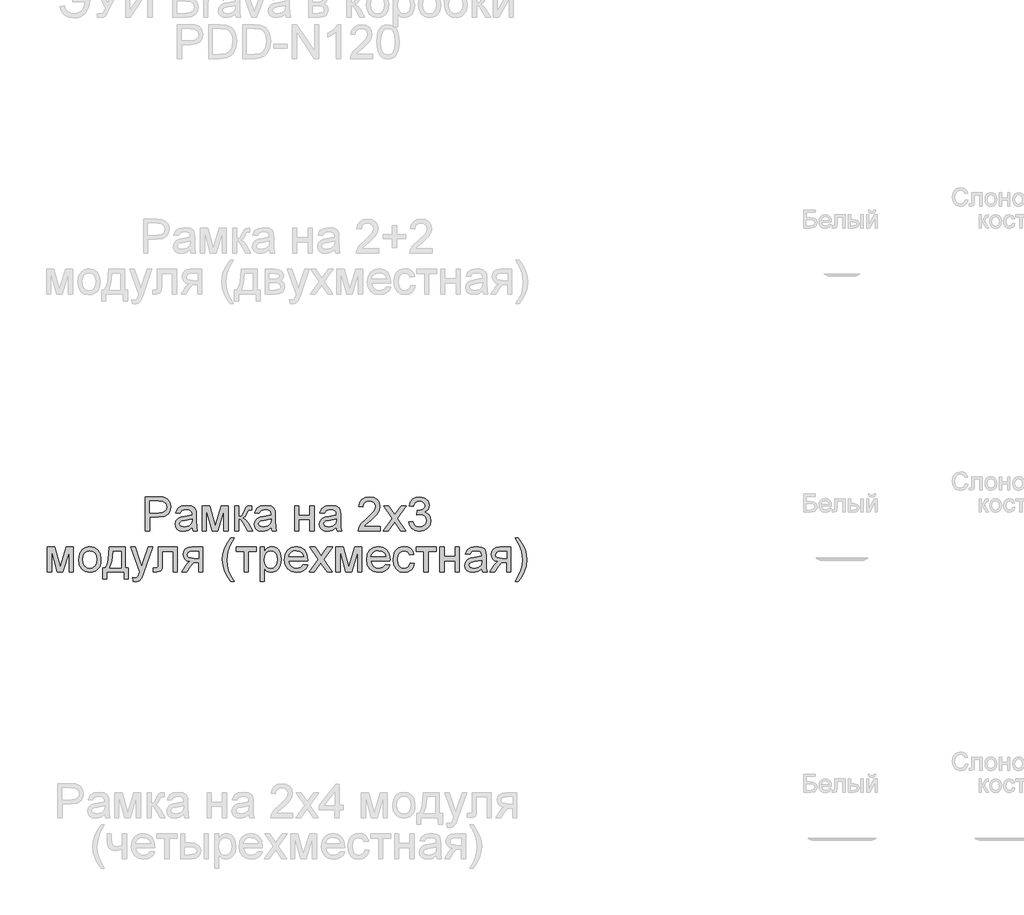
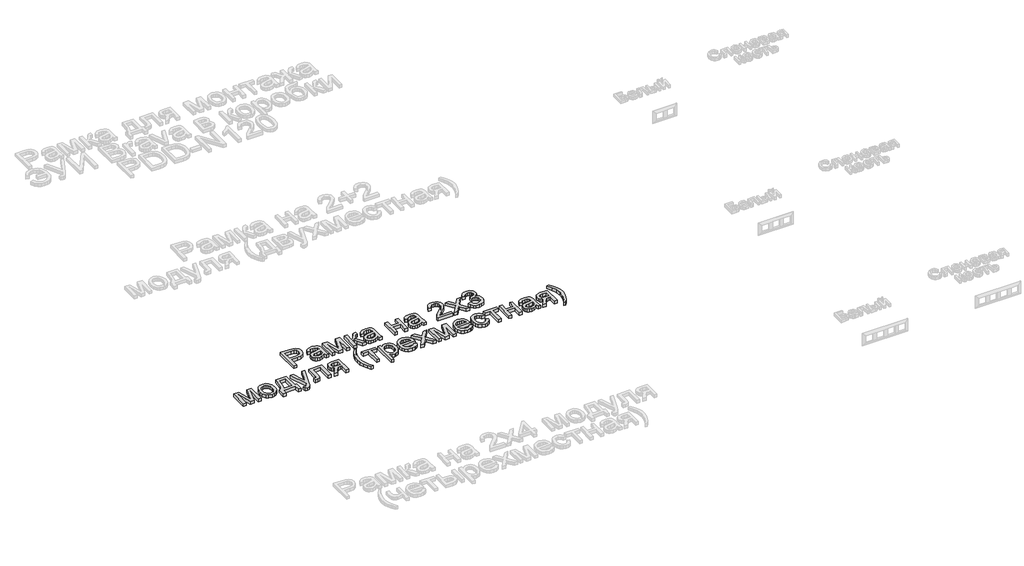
# One storey, part 40 of 47: 1 proxy.
"""IFC4 building model written with IfcOpenShell, lengths in millimetres."""

from ifc_helpers import new_model, si_unit, origin, origin_with_axes, place, context, project, spatial, polyline, outline, extrude, element, save

model = new_model("IFC4")

# Units and contexts
model_context = context("Model", 3, world=origin())
ifc_project = project(units=[si_unit("LENGTHUNIT", "METRE", prefix="MILLI")], contexts=[model_context])

# Site, building, storey
site = spatial("IfcSite", under=ifc_project)
building = spatial("IfcBuilding", under=site)
storey = spatial("IfcBuildingStorey", under=building, Name="Этаж 01", Elevation=0.0)

# Proxy
placement = place(None, origin())
element("IfcBuildingElementProxy", 1, Name="150 мм Arial", ObjectType="150 мм Arial", at=placement, inside=storey, context=model_context, shape_type="SweptSolid", body=[
    extrude(outline(polyline([(-3086.8258481, 401.4936548), (-3086.8258481, 552.17812), (-3030.9813612, 552.17812), (-3008.4669831, 550.7433802), (-2990.1648539, 543.69844), (-2978.3006595, 529.130313), (-2973.8124992, 508.5841036), (-2976.8429271, 490.8246003), (-2985.9342109, 476.026547), (-3002.9349576, 466.0385509), (-3029.6937742, 462.7092188), (-3067.9902899, 462.7092188), (-3067.9902899, 401.4936548), (-3086.8258481, 401.4936548)]), holes=[polyline([(-3067.9902899, 481.544777), (-3028.5901283, 481.544777), (-3011.8882857, 483.2738223), (-3000.8518258, 488.4609585), (-2994.6989995, 496.7842886), (-2992.6480573, 507.921916), (-2997.4857056, 523.5201126), (-3010.1960285, 532.0549749), (-3029.0315867, 533.3425619), (-3067.9902899, 533.3425619), (-3067.9902899, 481.544777)])]), origin_with_axes(), (0.0, 0.0, 1.0), 20.0),
    extrude(outline(polyline([(-2879.6347084, 415.6203234), (-2897.9000495, 402.8548182), (-2918.0783769, 399.13921), (-2933.8191278, 401.3740932), (-2945.4304032, 408.0787425), (-2952.5903066, 418.2598767), (-2954.976941, 430.9242144), (-2951.3716975, 445.8234352), (-2941.8987361, 456.6391659), (-2928.7101666, 462.8195834), (-2912.4129942, 465.6522748), (-2879.745073, 472.1269979), (-2879.6347084, 476.3208526), (-2880.9314924, 484.7269562), (-2884.8218445, 490.226792), (-2893.5222537, 494.3102822), (-2905.6439655, 495.6714456), (-2924.7002528, 492.0478079), (-2933.7869381, 479.1903322), (-2952.6224963, 481.544777), (-2944.4739101, 499.9388767), (-2928.0663731, 510.7178192), (-2903.2159443, 514.5070037), (-2880.3888665, 511.1592776), (-2867.4946026, 502.753174), (-2861.7188552, 489.9692746), (-2860.7991503, 473.4881613), (-2860.7991503, 450.0540782), (-2859.8426571, 417.3309747), (-2856.0902607, 401.4936548), (-2874.9258189, 401.4936548), (-2879.6347084, 415.6203234)]), holes=[polyline([(-2879.6347084, 453.2914397), (-2910.0217612, 447.5156924), (-2926.2269631, 444.4622718), (-2933.5662089, 439.4958649), (-2936.1413829, 432.2485896), (-2930.5311824, 422.0582583), (-2914.0684632, 417.9747682), (-2895.0121758, 422.4813226), (-2882.7249172, 433.3890238), (-2879.745073, 447.9571508), (-2879.6347084, 453.2914397)])]), origin_with_axes(), (0.0, 0.0, 1.0), 20.0),
    extrude(outline(polyline([(-2834.9002578, 512.152559), (-2802.489854, 512.152559), (-2777.5106665, 423.5665745), (-2750.5817045, 512.152559), (-2719.5324641, 512.152559), (-2719.5324641, 401.4936548), (-2738.3680223, 401.4936548), (-2738.3680223, 490.594674), (-2765.4441371, 401.4936548), (-2790.1658072, 401.4936548), (-2816.0646996, 494.8621052), (-2816.0646996, 401.4936548), (-2834.9002578, 401.4936548), (-2834.9002578, 512.152559)])), origin_with_axes(), (0.0, 0.0, 1.0), 20.0),
    extrude(outline(polyline([(-2691.2791269, 512.152559), (-2672.4435687, 512.152559), (-2672.4435687, 465.0636636), (-2659.8252163, 468.4481779), (-2649.4877322, 488.1666529), (-2640.8976876, 505.1811951), (-2633.3193185, 510.7178192), (-2619.5421378, 512.152559), (-2615.9368943, 512.152559), (-2615.9368943, 493.2066362), (-2621.0136658, 493.3170008), (-2630.2107157, 491.330438), (-2636.6854388, 478.9328148), (-2644.282202, 465.5235161), (-2654.9323858, 458.9568225), (-2643.0497973, 451.6267737), (-2631.3879381, 436.184927), (-2611.2280047, 401.4936548), (-2632.6387368, 401.4936548), (-2652.394, 435.449163), (-2662.3268139, 449.8149549), (-2672.4435687, 453.2914397), (-2672.4435687, 401.4936548), (-2691.2791269, 401.4936548), (-2691.2791269, 512.152559)])), origin_with_axes(), (0.0, 0.0, 1.0), 20.0),
    extrude(outline(polyline([(-2528.8224378, 415.6203234), (-2547.0877789, 402.8548182), (-2567.2661063, 399.13921), (-2583.0068572, 401.3740932), (-2594.6181326, 408.0787425), (-2601.778036, 418.2598767), (-2604.1646704, 430.9242144), (-2600.5594269, 445.8234352), (-2591.0864655, 456.6391659), (-2577.897896, 462.8195834), (-2561.6007236, 465.6522748), (-2528.9328024, 472.1269979), (-2528.8224378, 476.3208526), (-2530.1192218, 484.7269562), (-2534.0095739, 490.226792), (-2542.7099831, 494.3102822), (-2554.8316949, 495.6714456), (-2573.8879822, 492.0478079), (-2582.9746675, 479.1903322), (-2601.8102257, 481.544777), (-2593.6616395, 499.9388767), (-2577.2541025, 510.7178192), (-2552.4036737, 514.5070037), (-2529.5765959, 511.1592776), (-2516.682332, 502.753174), (-2510.9065846, 489.9692746), (-2509.9868797, 473.4881613), (-2509.9868797, 450.0540782), (-2509.0303865, 417.3309747), (-2505.2779901, 401.4936548), (-2524.1135483, 401.4936548), (-2528.8224378, 415.6203234)]), holes=[polyline([(-2528.8224378, 453.2914397), (-2559.2094906, 447.5156924), (-2575.4146925, 444.4622718), (-2582.7539383, 439.4958649), (-2585.3291123, 432.2485896), (-2579.7189118, 422.0582583), (-2563.2561926, 417.9747682), (-2544.1999052, 422.4813226), (-2531.9126466, 433.3890238), (-2528.9328024, 447.9571508), (-2528.8224378, 453.2914397)])]), origin_with_axes(), (0.0, 0.0, 1.0), 20.0),
    extrude(outline(polyline([(-2425.226868, 512.152559), (-2406.3913098, 512.152559), (-2406.3913098, 469.7725531), (-2356.9479697, 469.7725531), (-2356.9479697, 512.152559), (-2338.1124115, 512.152559), (-2338.1124115, 401.4936548), (-2356.9479697, 401.4936548), (-2356.9479697, 450.936995), (-2406.3913098, 450.936995), (-2406.3913098, 401.4936548), (-2425.226868, 401.4936548), (-2425.226868, 512.152559)])), origin_with_axes(), (0.0, 0.0, 1.0), 20.0),
    extrude(outline(polyline([(-2239.2257312, 415.6203234), (-2257.4910723, 402.8548182), (-2277.6693997, 399.13921), (-2293.4101506, 401.3740932), (-2305.021426, 408.0787425), (-2312.1813294, 418.2598767), (-2314.5679638, 430.9242144), (-2310.9627203, 445.8234352), (-2301.4897589, 456.6391659), (-2288.3011894, 462.8195834), (-2272.004017, 465.6522748), (-2239.3360958, 472.1269979), (-2239.2257312, 476.3208526), (-2240.5225152, 484.7269562), (-2244.4128673, 490.226792), (-2253.1132765, 494.3102822), (-2265.2349883, 495.6714456), (-2284.2912756, 492.0478079), (-2293.3779609, 479.1903322), (-2312.213519, 481.544777), (-2304.0649329, 499.9388767), (-2287.6573959, 510.7178192), (-2262.8069671, 514.5070037), (-2239.9798893, 511.1592776), (-2227.0856254, 502.753174), (-2221.309878, 489.9692746), (-2220.3901731, 473.4881613), (-2220.3901731, 450.0540782), (-2219.4336799, 417.3309747), (-2215.6812835, 401.4936548), (-2234.5168417, 401.4936548), (-2239.2257312, 415.6203234)]), holes=[polyline([(-2239.2257312, 453.2914397), (-2269.612784, 447.5156924), (-2285.8179859, 444.4622718), (-2293.1572317, 439.4958649), (-2295.7324057, 432.2485896), (-2290.1222052, 422.0582583), (-2273.659486, 417.9747682), (-2254.6031986, 422.4813226), (-2242.31594, 433.3890238), (-2239.3360958, 447.9571508), (-2239.2257312, 453.2914397)])]), origin_with_axes(), (0.0, 0.0, 1.0), 20.0),
    extrude(outline(polyline([(-2043.8068154, 420.329213), (-2043.8068154, 401.4936548), (-2142.6934957, 401.4936548), (-2140.6701447, 414.4798892), (-2129.2290146, 434.4742757), (-2105.6477788, 456.3080721), (-2073.1270104, 487.6884063), (-2067.0293663, 498.5041369), (-2064.9968183, 509.025562), (-2066.9144032, 518.4571366), (-2072.6671579, 526.2976217), (-2081.5101213, 531.5813268), (-2092.6983325, 533.3425619), (-2104.4475637, 531.6227135), (-2113.5756358, 526.4631686), (-2119.4663462, 518.2685971), (-2121.5034927, 507.4436694), (-2140.3390509, 509.7981142), (-2135.7727156, 528.01747), (-2125.8996826, 541.3256012), (-2111.2349866, 549.4649903), (-2092.2936623, 552.17812), (-2073.2143824, 549.1614877), (-2058.5772775, 540.1115906), (-2049.2652645, 526.5919273), (-2046.1612601, 510.1659962), (-2049.5089863, 492.3053253), (-2060.6374166, 473.8376492), (-2087.621561, 448.0307272), (-2109.2898105, 429.9125389), (-2117.7878846, 420.329213), (-2043.8068154, 420.329213)])), origin_with_axes(), (0.0, 0.0, 1.0), 20.0),
    extrude(outline(polyline([(-2032.0345915, 401.4936548), (-1991.7883013, 457.1174125), (-2029.6801468, 512.152559), (-2007.0186159, 512.152559), (-1988.7348807, 485.6650553), (-1980.2000184, 473.1570675), (-1972.8055903, 483.3841869), (-1951.9834694, 512.152559), (-1929.3219385, 512.152559), (-1969.1267703, 457.1174125), (-1930.7934664, 401.4936548), (-1953.4549974, 401.4936548), (-1976.5211985, 434.9341282), (-1980.7518414, 441.0409693), (-2009.3730606, 401.4936548), (-2032.0345915, 401.4936548)])), origin_with_axes(), (0.0, 0.0, 1.0), 20.0),
    extrude(outline(polyline([(-1919.0212426, 441.5192159), (-1900.1856845, 443.8736607), (-1895.9688371, 432.0370575), (-1889.7930181, 424.0448211), (-1881.3547248, 419.4922814), (-1870.3504546, 417.9747682), (-1857.4377966, 420.0624985), (-1847.4681945, 426.3256895), (-1841.094639, 435.6698922), (-1838.9701205, 447.0006576), (-1841.0762449, 457.7566074), (-1847.3946181, 466.4800093), (-1856.95955, 472.2603551), (-1868.8053503, 474.1871371), (-1882.0123139, 472.1269979), (-1879.9153865, 490.962556), (-1876.8987542, 490.7418268), (-1855.5248102, 496.1496922), (-1848.4062936, 503.0106914), (-1846.0334548, 512.7779583), (-1847.7533031, 520.912749), (-1852.9128481, 527.5116323), (-1860.7855228, 531.8848295), (-1870.6447602, 533.3425619), (-1880.5223918, 531.8710339), (-1888.5974016, 527.45645), (-1894.4927106, 520.0988101), (-1897.8312397, 509.7981142), (-1916.6667978, 512.152559), (-1911.1209768, 529.0659337), (-1901.2525422, 541.6934832), (-1887.751273, 549.5569608), (-1871.3069478, 552.17812), (-1848.5902346, 547.009378), (-1832.6977324, 532.8827094), (-1827.1978966, 513.8816043), (-1832.4218209, 496.5175742), (-1847.8728647, 484.0463745), (-1836.0822468, 479.2823027), (-1827.3450494, 471.1705047), (-1821.9371841, 460.1524389), (-1820.1345623, 446.6695638), (-1823.7398059, 428.3122523), (-1834.5555365, 412.9715731), (-1850.8803, 402.5973008), (-1871.0126422, 399.13921), (-1889.222801, 402.091463), (-1904.0484454, 410.9482221), (-1914.3583383, 424.4954766), (-1919.0212426, 441.5192159)])), origin_with_axes(), (0.0, 0.0, 1.0), 20.0),
    extrude(outline(polyline([(-3522.3981304, 329.1903322), (-3489.9877266, 329.1903322), (-3465.0085391, 240.6043477), (-3438.0795771, 329.1903322), (-3407.0303367, 329.1903322), (-3407.0303367, 218.531428), (-3425.8658948, 218.531428), (-3425.8658948, 307.6324473), (-3452.9420097, 218.531428), (-3477.6636798, 218.531428), (-3503.5625722, 311.8998784), (-3503.5625722, 218.531428), (-3522.3981304, 218.531428), (-3522.3981304, 329.1903322)])), origin_with_axes(), (0.0, 0.0, 1.0), 20.0),
    extrude(outline(polyline([(-3383.485889, 273.8608801), (-3379.4115959, 300.5415218), (-3367.1887166, 319.2943065), (-3352.0871607, 328.4821593), (-3334.0057607, 331.544777), (-3314.2183078, 327.8153732), (-3298.4131776, 316.6271621), (-3288.0527009, 298.8630602), (-3284.5992087, 275.4059845), (-3286.125919, 256.3772883), (-3290.7060498, 241.8919347), (-3298.206244, 231.0440144), (-3308.4931443, 222.9276179), (-3320.7114251, 217.8646419), (-3334.0057607, 216.1769833), (-3354.0323368, 219.8925914), (-3369.8190729, 231.0394159), (-3380.069185, 249.1759982), (-3383.485889, 273.8608801)]), holes=[polyline([(-3364.6503309, 273.8976683), (-3362.47063, 256.8509364), (-3355.9315276, 244.706232), (-3346.0906842, 237.4359641), (-3334.0057607, 235.0125414), (-3321.9760194, 237.4497596), (-3312.1535701, 244.7614143), (-3305.6144677, 257.067067), (-3303.4347669, 274.4862795), (-3305.6282632, 291.0363708), (-3312.2087524, 303.0155282), (-3322.0449973, 310.2857962), (-3334.0057607, 312.7092188), (-3346.0906842, 310.2949932), (-3355.9315276, 303.0523164), (-3362.47063, 290.9352032), (-3364.6503309, 273.8976683)])]), origin_with_axes(), (0.0, 0.0, 1.0), 20.0),
    extrude(outline(polyline([(-3246.9280924, 329.1903322), (-3176.2947493, 329.1903322), (-3176.2947493, 237.3669862), (-3162.1680807, 237.3669862), (-3162.1680807, 187.923646), (-3181.0036389, 187.923646), (-3181.0036389, 218.531428), (-3258.7003162, 218.531428), (-3258.7003162, 187.923646), (-3277.5358744, 187.923646), (-3277.5358744, 237.3669862), (-3265.7636505, 237.3669862), (-3257.2057956, 252.8318256), (-3251.2139176, 273.290663), (-3246.9280924, 329.1903322)]), holes=[polyline([(-3230.446979, 310.354774), (-3234.861563, 267.4413393), (-3244.5736476, 237.3669862), (-3195.1303075, 237.3669862), (-3195.1303075, 310.354774), (-3230.446979, 310.354774)])]), origin_with_axes(), (0.0, 0.0, 1.0), 20.0),
    extrude(outline(polyline([(-3140.9780778, 176.1514222), (-3143.3325226, 194.2880046), (-3133.7675907, 192.6325356), (-3124.8280582, 194.7110689), (-3119.3466165, 200.5052103), (-3114.1962685, 214.3743615), (-3112.7247406, 218.9360982), (-3152.7503016, 329.1903322), (-3132.8846739, 329.1903322), (-3111.6578828, 267.754039), (-3104.2634547, 243.1795217), (-3096.8690266, 264.8845594), (-3075.0536242, 329.1903322), (-3055.3351493, 329.1903322), (-3093.8523942, 215.8826777), (-3103.8587845, 191.3081604), (-3114.7848797, 178.0276204), (-3129.4633713, 173.7969774), (-3140.9780778, 176.1514222)])), origin_with_axes(), (0.0, 0.0, 1.0), 20.0),
    extrude(outline(polyline([(-3030.3191736, 329.1903322), (-2945.5591619, 329.1903322), (-2945.5591619, 218.6417926), (-2964.3947201, 218.6417926), (-2964.3947201, 310.354774), (-3011.4836155, 310.354774), (-3011.4836155, 257.5637077), (-3012.7528084, 233.2099196), (-3019.7241722, 222.9276179), (-3036.2052856, 218.531428), (-3051.5091766, 219.4879212), (-3051.5091766, 237.3669862), (-3043.0846789, 237.3669862), (-3034.5682107, 238.5258145), (-3031.1653022, 242.2046344), (-3030.3191736, 258.6305655), (-3030.3191736, 329.1903322)])), origin_with_axes(), (0.0, 0.0, 1.0), 20.0),
    extrude(outline(polyline([(-2832.545813, 329.1903322), (-2832.545813, 218.531428), (-2851.3813712, 218.531428), (-2851.3813712, 260.9114339), (-2861.6452788, 260.9114339), (-2875.6247947, 258.5202009), (-2888.7581819, 242.4437577), (-2903.7677673, 218.531428), (-2925.5463814, 218.531428), (-2906.6372469, 248.771328), (-2898.2863256, 259.6238469), (-2890.5975919, 264.443101), (-2903.4734617, 268.3886354), (-2912.5233588, 275.8842311), (-2917.8760418, 285.8538332), (-2919.6602695, 297.2213868), (-2917.2230513, 310.1156507), (-2909.9113966, 320.3243761), (-2897.9828229, 326.9738432), (-2881.6948476, 329.1903322), (-2832.545813, 329.1903322)]), holes=[polyline([(-2851.3813712, 310.354774), (-2876.2134059, 310.354774), (-2889.0386919, 309.2649236), (-2896.3181569, 305.9953724), (-2900.8247113, 295.786647), (-2899.1646438, 288.6083496), (-2894.1844413, 283.6281471), (-2870.6583877, 279.746992), (-2851.3813712, 279.746992), (-2851.3813712, 310.354774)])]), origin_with_axes(), (0.0, 0.0, 1.0), 20.0),
    extrude(outline(polyline([(-2707.7602403, 176.1514222), (-2722.3559584, 196.6332523), (-2734.5052613, 220.3340498), (-2742.6998328, 246.1041836), (-2745.4313566, 272.7940223), (-2743.3896115, 296.2005143), (-2737.2643763, 318.5953307), (-2725.1058763, 343.9607943), (-2707.7602403, 369.2158933), (-2693.6335716, 369.2158933), (-2711.2551192, 339.3806635), (-2721.8501207, 310.4651386), (-2726.5957984, 272.6836577), (-2724.5356592, 248.5368033), (-2718.3552417, 224.3991459), (-2708.0545459, 200.2706855), (-2693.6335716, 176.1514222), (-2707.7602403, 176.1514222)])), origin_with_axes(), (0.0, 0.0, 1.0), 20.0),
    extrude(outline(polyline([(-2684.2157926, 329.1903322), (-2594.7468913, 329.1903322), (-2594.7468913, 310.354774), (-2630.0635629, 310.354774), (-2630.0635629, 218.531428), (-2648.899121, 218.531428), (-2648.899121, 310.354774), (-2684.2157926, 310.354774), (-2684.2157926, 329.1903322)])), origin_with_axes(), (0.0, 0.0, 1.0), 20.0),
    extrude(outline(polyline([(-2578.265778, 176.1514222), (-2578.265778, 329.1903322), (-2559.4302198, 329.1903322), (-2559.4302198, 310.722656), (-2546.4071972, 326.3392467), (-2528.8224378, 331.544777), (-2516.0845237, 329.7237611), (-2504.9468963, 324.2607135), (-2495.8786051, 315.4867279), (-2489.3486997, 303.7328981), (-2484.0879872, 274.7070087), (-2485.5733108, 258.5983758), (-2490.0292814, 244.1911972), (-2497.3133449, 232.2166383), (-2507.282947, 223.4058645), (-2518.8942225, 217.9842036), (-2531.1033062, 216.1769833), (-2547.4924491, 221.0146315), (-2559.4302198, 233.2467078), (-2559.4302198, 176.1514222), (-2578.265778, 176.1514222)]), holes=[polyline([(-2559.4302198, 272.9779633), (-2557.3930733, 256.0921797), (-2551.2816336, 244.2831677), (-2542.2639262, 237.330198), (-2531.5079764, 235.0125414), (-2520.5772826, 237.4129714), (-2511.3296489, 244.6142615), (-2505.0250712, 256.8555349), (-2502.9235453, 274.3759149), (-2504.9744875, 291.169728), (-2511.1273138, 303.1442869), (-2520.1312257, 310.3179858), (-2530.7354242, 312.7092188), (-2541.3810094, 310.1662345), (-2550.7298106, 302.5372816), (-2557.2551175, 290.0614835), (-2559.4302198, 272.9779633)])]), origin_with_axes(), (0.0, 0.0, 1.0), 20.0),
    extrude(outline(polyline([(-2385.4220361, 251.4936548), (-2366.9543599, 249.13921), (-2373.6084255, 235.2240736), (-2384.2264196, 224.8222102), (-2398.5692189, 218.33829), (-2416.3977001, 216.1769833), (-2438.4982109, 219.906387), (-2455.5035562, 231.0945982), (-2466.346878, 249.0150499), (-2469.9613186, 272.9411751), (-2466.3100898, 297.6720423), (-2455.3564034, 316.1673096), (-2438.5809844, 327.7004101), (-2417.4645579, 331.544777), (-2397.0057204, 327.7096072), (-2380.6579643, 316.2040978), (-2369.9388026, 297.7456186), (-2366.3657487, 273.0515397), (-2366.4761133, 267.9747682), (-2451.1257604, 267.9747682), (-2447.8654062, 253.8756907), (-2440.2916357, 243.5106155), (-2429.3609419, 237.1370599), (-2416.0298181, 235.0125414), (-2397.5621419, 238.9488788), (-2385.4220361, 251.4936548)]), holes=[polyline([(-2451.1257604, 286.8103263), (-2385.2013069, 286.8103263), (-2387.7488897, 296.7615343), (-2392.7428878, 303.8800509), (-2403.7241653, 310.5019268), (-2417.5381343, 312.7092188), (-2430.2346616, 310.9479838), (-2440.7330941, 305.6642786), (-2448.0309531, 297.4283204), (-2451.1257604, 286.8103263)])]), origin_with_axes(), (0.0, 0.0, 1.0), 20.0),
    extrude(outline(polyline([(-2359.3024144, 218.531428), (-2319.0561242, 274.1551857), (-2356.9479697, 329.1903322), (-2334.2864388, 329.1903322), (-2316.0027036, 302.7028285), (-2307.4678413, 290.1948407), (-2300.0734132, 300.4219602), (-2279.2512923, 329.1903322), (-2256.5897614, 329.1903322), (-2296.3945933, 274.1551857), (-2258.0612894, 218.531428), (-2280.7228203, 218.531428), (-2303.7890214, 251.9719014), (-2308.0196643, 258.0787425), (-2336.6408835, 218.531428), (-2359.3024144, 218.531428)])), origin_with_axes(), (0.0, 0.0, 1.0), 20.0),
    extrude(outline(polyline([(-2241.580176, 329.1903322), (-2209.1697722, 329.1903322), (-2184.1905847, 240.6043477), (-2157.2616227, 329.1903322), (-2126.2123823, 329.1903322), (-2126.2123823, 218.531428), (-2145.0479404, 218.531428), (-2145.0479404, 307.6324473), (-2172.1240553, 218.531428), (-2196.8457254, 218.531428), (-2222.7446178, 311.8998784), (-2222.7446178, 218.531428), (-2241.580176, 218.531428), (-2241.580176, 329.1903322)])), origin_with_axes(), (0.0, 0.0, 1.0), 20.0),
    extrude(outline(polyline([(-2020.4830969, 251.4936548), (-2002.0154207, 249.13921), (-2008.6694863, 235.2240736), (-2019.2874804, 224.8222102), (-2033.6302797, 218.33829), (-2051.4587609, 216.1769833), (-2073.5592717, 219.906387), (-2090.564617, 231.0945982), (-2101.4079388, 249.0150499), (-2105.0223794, 272.9411751), (-2101.3711506, 297.6720423), (-2090.4174642, 316.1673096), (-2073.6420452, 327.7004101), (-2052.5256187, 331.544777), (-2032.0667812, 327.7096072), (-2015.719025, 316.2040978), (-2004.9998634, 297.7456186), (-2001.4268095, 273.0515397), (-2001.5371741, 267.9747682), (-2086.1868212, 267.9747682), (-2082.926467, 253.8756907), (-2075.3526965, 243.5106155), (-2064.4220027, 237.1370599), (-2051.0908789, 235.0125414), (-2032.6232027, 238.9488788), (-2020.4830969, 251.4936548)]), holes=[polyline([(-2086.1868212, 286.8103263), (-2020.2623677, 286.8103263), (-2022.8099505, 296.7615343), (-2027.8039486, 303.8800509), (-2038.7852261, 310.5019268), (-2052.5991951, 312.7092188), (-2065.2957224, 310.9479838), (-2075.7941548, 305.6642786), (-2083.0920139, 297.4283204), (-2086.1868212, 286.8103263)])]), origin_with_axes(), (0.0, 0.0, 1.0), 20.0),
    extrude(outline(polyline([(-1911.9579083, 258.5569891), (-1893.1223501, 256.2025443), (-1898.3738656, 239.450118), (-1908.2423001, 226.7903788), (-1921.7987517, 218.8303322), (-1938.1143182, 216.1769833), (-1958.1500913, 219.8787958), (-1973.8172658, 230.9842336), (-1983.9294221, 249.0058528), (-1987.3001409, 273.4562099), (-1985.8608026, 290.2178333), (-1981.5427877, 304.7445736), (-1974.2771183, 316.4754107), (-1963.9948165, 324.8493246), (-1951.6937623, 329.8709139), (-1938.3718356, 331.544777), (-1922.4563407, 329.2455145), (-1909.7322222, 322.3477271), (-1900.6041502, 311.2192967), (-1895.4767949, 296.2281054), (-1914.3123531, 293.8736607), (-1923.0495505, 307.9819352), (-1938.2246828, 312.7092188), (-1950.3969783, 310.3823652), (-1960.0584792, 303.4018043), (-1966.3630569, 291.3904572), (-1968.4645828, 273.9712447), (-1966.4090421, 256.3175075), (-1960.2424202, 244.2647736), (-1950.7556632, 237.3255995), (-1938.7397175, 235.0125414), (-1928.9862461, 236.4564783), (-1920.9894113, 240.7882887), (-1915.1722772, 248.1183375), (-1911.9579083, 258.5569891)])), origin_with_axes(), (0.0, 0.0, 1.0), 20.0),
    extrude(outline(polyline([(-1886.0590158, 329.1903322), (-1796.5901146, 329.1903322), (-1796.5901146, 310.354774), (-1831.9067861, 310.354774), (-1831.9067861, 218.531428), (-1850.7423443, 218.531428), (-1850.7423443, 310.354774), (-1886.0590158, 310.354774), (-1886.0590158, 329.1903322)])), origin_with_axes(), (0.0, 0.0, 1.0), 20.0),
    extrude(outline(polyline([(-1780.1090012, 329.1903322), (-1761.2734431, 329.1903322), (-1761.2734431, 286.8103263), (-1711.8301029, 286.8103263), (-1711.8301029, 329.1903322), (-1692.9945448, 329.1903322), (-1692.9945448, 218.531428), (-1711.8301029, 218.531428), (-1711.8301029, 267.9747682), (-1761.2734431, 267.9747682), (-1761.2734431, 218.531428), (-1780.1090012, 218.531428), (-1780.1090012, 329.1903322)])), origin_with_axes(), (0.0, 0.0, 1.0), 20.0),
    extrude(outline(polyline([(-1594.1078645, 232.6580967), (-1612.3732055, 219.8925914), (-1632.551533, 216.1769833), (-1648.2922838, 218.4118664), (-1659.9035593, 225.1165158), (-1667.0634626, 235.29765), (-1669.4500971, 247.9619877), (-1665.8448535, 262.8612085), (-1656.3718921, 273.6769391), (-1643.1833226, 279.8573566), (-1626.8861502, 282.690048), (-1594.2182291, 289.1647711), (-1594.1078645, 293.3586259), (-1595.4046485, 301.7647294), (-1599.2950006, 307.2645653), (-1607.9954098, 311.3480554), (-1620.1171215, 312.7092188), (-1639.1734089, 309.0855812), (-1648.2600942, 296.2281054), (-1667.0956523, 298.5825502), (-1658.9470661, 316.9766499), (-1642.5395291, 327.7555924), (-1617.6891004, 331.544777), (-1594.8620226, 328.1970508), (-1581.9677586, 319.7909472), (-1576.1920113, 307.0070479), (-1575.2723063, 290.5259345), (-1575.2723063, 267.0918514), (-1574.3158131, 234.3687479), (-1570.5634168, 218.531428), (-1589.3989749, 218.531428), (-1594.1078645, 232.6580967)]), holes=[polyline([(-1594.1078645, 270.329213), (-1624.4949173, 264.5534656), (-1640.7001192, 261.5000451), (-1648.039365, 256.5336381), (-1650.6145389, 249.2863628), (-1645.0043385, 239.0960316), (-1628.5416192, 235.0125414), (-1609.4853319, 239.5190959), (-1597.1980732, 250.426797), (-1594.2182291, 264.994924), (-1594.1078645, 270.329213)])]), origin_with_axes(), (0.0, 0.0, 1.0), 20.0),
    extrude(outline(polyline([(-1464.6134022, 329.1903322), (-1464.6134022, 218.531428), (-1483.4489603, 218.531428), (-1483.4489603, 260.9114339), (-1493.712868, 260.9114339), (-1507.6923838, 258.5202009), (-1520.825771, 242.4437577), (-1535.8353564, 218.531428), (-1557.6139705, 218.531428), (-1538.704836, 248.771328), (-1530.3539147, 259.6238469), (-1522.665181, 264.443101), (-1535.5410508, 268.3886354), (-1544.5909479, 275.8842311), (-1549.9436309, 285.8538332), (-1551.7278586, 297.2213868), (-1549.2906404, 310.1156507), (-1541.9789857, 320.3243761), (-1530.0504121, 326.9738432), (-1513.7624367, 329.1903322), (-1464.6134022, 329.1903322)]), holes=[polyline([(-1483.4489603, 310.354774), (-1508.280995, 310.354774), (-1521.106281, 309.2649236), (-1528.385746, 305.9953724), (-1532.8923005, 295.786647), (-1531.232233, 288.6083496), (-1526.2520305, 283.6281471), (-1502.7259769, 279.746992), (-1483.4489603, 279.746992), (-1483.4489603, 310.354774)])]), origin_with_axes(), (0.0, 0.0, 1.0), 20.0),
    extrude(outline(polyline([(-1431.6511754, 176.1514222), (-1445.777844, 176.1514222), (-1431.3568698, 200.2706855), (-1421.0561739, 224.3991459), (-1414.8757564, 248.5368033), (-1412.8156172, 272.6836577), (-1417.561295, 310.1340448), (-1428.0459318, 339.0863579), (-1445.777844, 369.2158933), (-1431.6511754, 369.2158933), (-1414.3055393, 343.9607943), (-1402.1470394, 318.5953307), (-1396.0218042, 296.2005143), (-1393.9800591, 272.7940223), (-1396.7253785, 246.1041836), (-1404.9613366, 220.3340498), (-1417.1244351, 196.6332523), (-1431.6511754, 176.1514222)])), origin_with_axes(), (0.0, 0.0, 1.0), 20.0),
])

save(model, "model.ifc")
